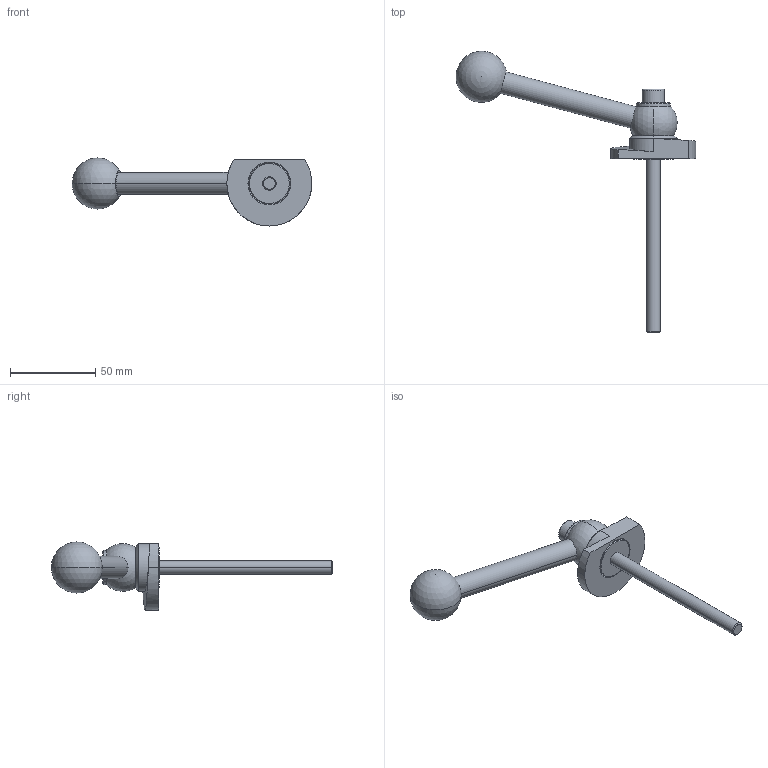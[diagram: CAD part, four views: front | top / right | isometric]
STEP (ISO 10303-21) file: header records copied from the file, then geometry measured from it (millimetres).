
FILE_DESCRIPTION (( 'STEP AP214' ), '1' );
FILE_NAME ('918.1-50-KVS-L-102.step', '2024-05-15T13:02:26', ( '' ), ( '' ), 'SwSTEP 2.0', 'SolidWorks 2022', '' );
FILE_SCHEMA (( 'AUTOMOTIVE_DESIGN' ));
Length unit declared in the file: millimetre
Products named in the file (1): 918.1-50-KVS-L-102
Bounding box: 140.94 x 165.31 x 40 mm (x, y, z)
Volume: 56584.8 mm3; surface area: 18053.3 mm2
Topology: 1 solids, 1 shells, 62 faces, 140 edges, 88 vertices
Faces by surface type: plane 20, cylinder 19, cone 14, sphere 4, bspline 3, torus 2
Entity records: 2001 total; most frequent: CARTESIAN_POINT 613, DIRECTION 305, ORIENTED_EDGE 260, EDGE_CURVE 130, AXIS2_PLACEMENT_3D 125, VERTEX_POINT 82, EDGE_LOOP 74, CIRCLE 65
